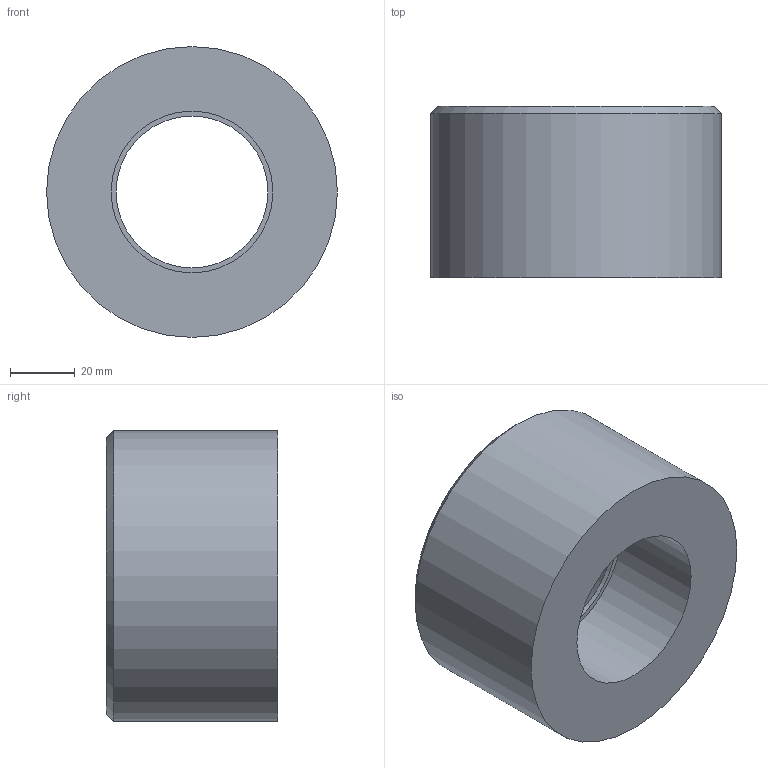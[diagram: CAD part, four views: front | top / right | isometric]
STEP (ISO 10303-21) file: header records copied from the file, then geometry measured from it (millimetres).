
FILE_DESCRIPTION(/* description */ ('PVC riduzione corta incollaggio metrica'),/* implementation_level */ '2;1');
FILE_NAME(/* name */ 'C:\Users\POLYPIPE\Desktop\DATASET INVENTOR\LIBRERIA EFFAST\RACCORDI 3DxWEB\RDR\3D_RDRRCD\3D_RDRRCD090F.stp',/* time_stamp */ '2018-01-19T15:32:17+01:00',/* author */ ('POLYPIPE'),/* organization */ ('Polypipe Italia s.r.l.'),/* preprocessor_version */ 'ST-DEVELOPER v16.1',/* originating_system */ 'Autodesk Inventor 2016',/* authorisation */ '');
FILE_SCHEMA (('CONFIG_CONTROL_DESIGN'));
Length unit declared in the file: millimetre
Products named in the file (1): 3D_RDRRCD
Bounding box: 90 x 53 x 90 mm (x, y, z)
Volume: 217186.6 mm3; surface area: 31157 mm2
Topology: 1 solids, 1 shells, 8 faces, 13 edges, 8 vertices
Faces by surface type: plane 3, cylinder 3, cone 2
Full cylindrical faces by diameter (mm): 47 x1, 50 x1, 90 x1
Entity records: 192 total; most frequent: DIRECTION 34, CARTESIAN_POINT 25, AXIS2_PLACEMENT_3D 17, EDGE_LOOP 16, ORIENTED_EDGE 16, FACE_BOUND 8, FACE_OUTER_BOUND 8, CIRCLE 8
